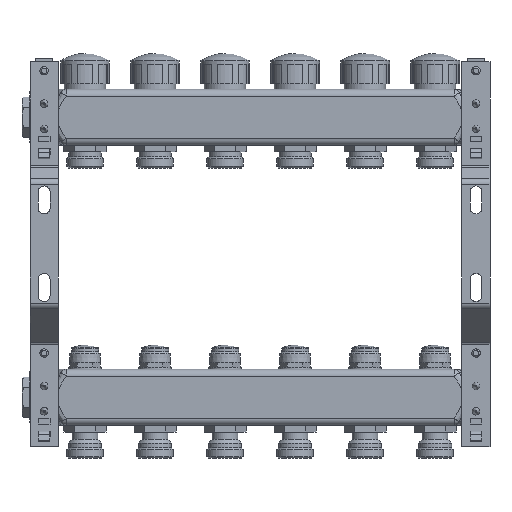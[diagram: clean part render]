
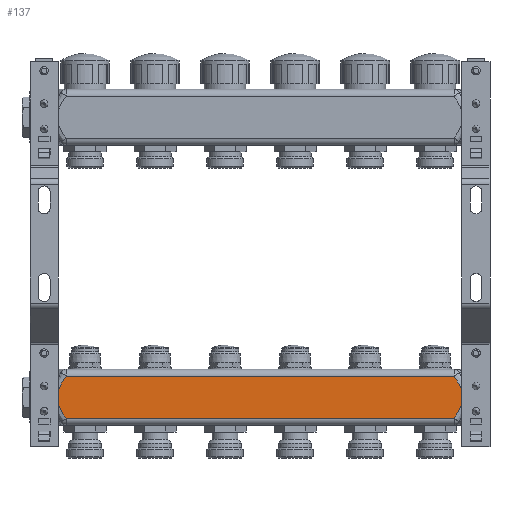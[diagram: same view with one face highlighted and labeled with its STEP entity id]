
A CAD part, front view. The second image highlights one B-rep face of the part: STEP entity #137.
In plain terms, the highlighted planar face has unit normal (0, -1, 0).
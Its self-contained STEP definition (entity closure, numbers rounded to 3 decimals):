
#137=ADVANCED_FACE('',(#2436),#2438,.T.);
#2436=FACE_BOUND('',#2437,.T.);
#2437=EDGE_LOOP('',(#12506,#12507,#12508,#12509));
#2438=PLANE('',#2439);
#2439=AXIS2_PLACEMENT_3D('',#2440,#2441,#2442);
#2440=CARTESIAN_POINT('',(1.7,46.5,-219.65));
#2441=DIRECTION('',(0.,-1.,0.));
#2442=DIRECTION('',(0.,0.,-1.));
#12506=ORIENTED_EDGE('',*,*,#17798,.T.);
#12507=ORIENTED_EDGE('',*,*,#17799,.F.);
#12508=ORIENTED_EDGE('',*,*,#17503,.T.);
#12509=ORIENTED_EDGE('',*,*,#17800,.T.);
#17503=EDGE_CURVE('',#20373,#20371,#20374,.T.);
#17798=EDGE_CURVE('',#20874,#20875,#20876,.T.);
#17799=EDGE_CURVE('',#20373,#20875,#20877,.T.);
#17800=EDGE_CURVE('',#20371,#20874,#20878,.T.);
#20371=VERTEX_POINT('',#27059);
#20373=VERTEX_POINT('',#27064);
#20374=B_SPLINE_CURVE_WITH_KNOTS('',3,
(#27065,#27066,#27067,#27068,#27069,#27070,#27071,#27072,#27073,#27074,#27075,#27076,
#27077,#27078,#27079,#27080,#27081,#27082,#27083,#27084,#27085,#27086,#27087,#27088),
.UNSPECIFIED.,.F.,.F.,
(4,1,1,1,1,1,1,1,1,1,1,1,1,1,1,1,1,1,1,1,1,4),
(0.,0.066,0.123,0.171,0.221,0.271,
0.322,0.369,0.413,0.45,0.485,
0.521,0.557,0.597,0.64,0.687,
0.738,0.789,0.841,0.891,0.945,
1.),
.UNSPECIFIED.);
#20874=VERTEX_POINT('',#29491);
#20875=VERTEX_POINT('',#29492);
#20876=B_SPLINE_CURVE_WITH_KNOTS('',3,
(#29493,#29494,#29495,#29496,#29497,#29498,#29499,#29500,#29501,#29502,#29503,#29504,
#29505,#29506,#29507,#29508,#29509,#29510,#29511,#29512,#29513,#29514,#29515,#29516),
.UNSPECIFIED.,.F.,.F.,
(4,1,1,1,1,1,1,1,1,1,1,1,1,1,1,1,1,1,1,1,1,4),
(0.,0.066,0.123,0.171,0.221,0.271,
0.322,0.369,0.413,0.45,0.485,
0.521,0.557,0.597,0.64,0.687,
0.738,0.789,0.841,0.891,0.945,
1.),
.UNSPECIFIED.);
#20877=LINE('',#29517,#29518);
#20878=LINE('',#29520,#29521);
#27059=CARTESIAN_POINT('',(25.634,46.5,-254.65));
#27064=CARTESIAN_POINT('',(25.634,46.5,-224.65));
#27065=CARTESIAN_POINT('',(25.634,46.5,-224.65));
#27066=CARTESIAN_POINT('',(25.196,46.5,-225.269));
#27067=CARTESIAN_POINT('',(24.401,46.5,-226.43));
#27068=CARTESIAN_POINT('',(23.362,46.5,-228.064));
#27069=CARTESIAN_POINT('',(22.485,46.5,-229.562));
#27070=CARTESIAN_POINT('',(21.717,46.5,-231.008));
#27071=CARTESIAN_POINT('',(21.012,46.5,-232.516));
#27072=CARTESIAN_POINT('',(20.421,46.5,-234.022));
#27073=CARTESIAN_POINT('',(19.968,46.5,-235.487));
#27074=CARTESIAN_POINT('',(19.669,46.5,-236.817));
#27075=CARTESIAN_POINT('',(19.494,46.5,-238.033));
#27076=CARTESIAN_POINT('',(19.414,46.5,-239.176));
#27077=CARTESIAN_POINT('',(19.421,46.5,-240.315));
#27078=CARTESIAN_POINT('',(19.518,46.5,-241.495));
#27079=CARTESIAN_POINT('',(19.72,46.5,-242.746));
#27080=CARTESIAN_POINT('',(20.047,46.5,-244.096));
#27081=CARTESIAN_POINT('',(20.52,46.5,-245.553));
#27082=CARTESIAN_POINT('',(21.134,46.5,-247.064));
#27083=CARTESIAN_POINT('',(21.87,46.5,-248.596));
#27084=CARTESIAN_POINT('',(22.685,46.5,-250.094));
#27085=CARTESIAN_POINT('',(23.586,46.5,-251.598));
#27086=CARTESIAN_POINT('',(24.565,46.5,-253.112));
#27087=CARTESIAN_POINT('',(25.27,46.5,-254.135));
#27088=CARTESIAN_POINT('',(25.634,46.5,-254.65));
#29491=CARTESIAN_POINT('',(302.766,46.5,-254.65));
#29492=CARTESIAN_POINT('',(302.766,46.5,-224.65));
#29493=CARTESIAN_POINT('',(302.766,46.5,-254.65));
#29494=CARTESIAN_POINT('',(303.204,46.5,-254.031));
#29495=CARTESIAN_POINT('',(303.999,46.5,-252.87));
#29496=CARTESIAN_POINT('',(305.038,46.5,-251.236));
#29497=CARTESIAN_POINT('',(305.915,46.5,-249.738));
#29498=CARTESIAN_POINT('',(306.683,46.5,-248.292));
#29499=CARTESIAN_POINT('',(307.388,46.5,-246.784));
#29500=CARTESIAN_POINT('',(307.979,46.5,-245.278));
#29501=CARTESIAN_POINT('',(308.432,46.5,-243.813));
#29502=CARTESIAN_POINT('',(308.731,46.5,-242.483));
#29503=CARTESIAN_POINT('',(308.906,46.5,-241.267));
#29504=CARTESIAN_POINT('',(308.986,46.5,-240.124));
#29505=CARTESIAN_POINT('',(308.979,46.5,-238.985));
#29506=CARTESIAN_POINT('',(308.882,46.5,-237.805));
#29507=CARTESIAN_POINT('',(308.68,46.5,-236.554));
#29508=CARTESIAN_POINT('',(308.353,46.5,-235.204));
#29509=CARTESIAN_POINT('',(307.88,46.5,-233.747));
#29510=CARTESIAN_POINT('',(307.266,46.5,-232.236));
#29511=CARTESIAN_POINT('',(306.53,46.5,-230.704));
#29512=CARTESIAN_POINT('',(305.715,46.5,-229.206));
#29513=CARTESIAN_POINT('',(304.814,46.5,-227.702));
#29514=CARTESIAN_POINT('',(303.835,46.5,-226.188));
#29515=CARTESIAN_POINT('',(303.13,46.5,-225.165));
#29516=CARTESIAN_POINT('',(302.766,46.5,-224.65));
#29517=CARTESIAN_POINT('',(25.634,46.5,-224.65));
#29518=VECTOR('',#29519,1.);
#29519=DIRECTION('',(1.,0.,0.));
#29520=CARTESIAN_POINT('',(25.634,46.5,-254.65));
#29521=VECTOR('',#29522,1.);
#29522=DIRECTION('',(1.,0.,0.));
